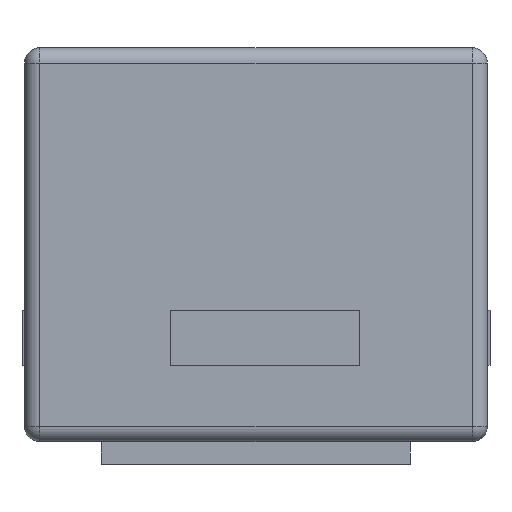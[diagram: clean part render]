
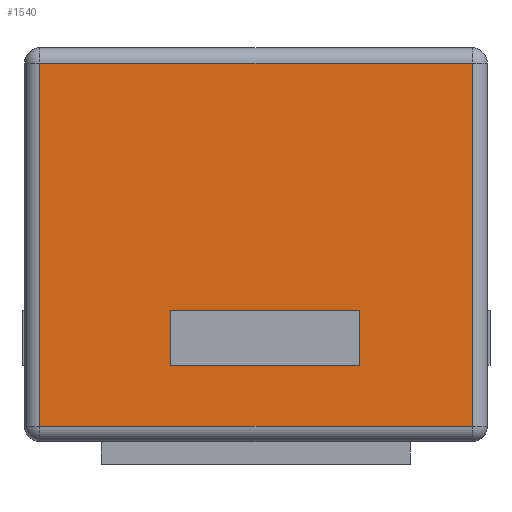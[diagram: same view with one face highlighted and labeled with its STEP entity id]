
A CAD part, left-side view. The second image highlights one B-rep face of the part: STEP entity #1540.
In plain terms, the highlighted planar face has unit normal (-1, 0, 0).
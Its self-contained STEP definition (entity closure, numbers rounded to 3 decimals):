
#189=ORIENTED_EDGE('',*,*,#435,.T.);
#190=ORIENTED_EDGE('',*,*,#436,.T.);
#191=ORIENTED_EDGE('',*,*,#437,.T.);
#192=ORIENTED_EDGE('',*,*,#438,.T.);
#193=ORIENTED_EDGE('',*,*,#389,.F.);
#194=ORIENTED_EDGE('',*,*,#387,.F.);
#195=ORIENTED_EDGE('',*,*,#385,.F.);
#196=ORIENTED_EDGE('',*,*,#382,.F.);
#382=EDGE_CURVE('',#529,#530,#619,.T.);
#385=EDGE_CURVE('',#530,#531,#622,.T.);
#387=EDGE_CURVE('',#531,#532,#624,.T.);
#389=EDGE_CURVE('',#532,#529,#626,.T.);
#435=EDGE_CURVE('',#558,#559,#672,.F.);
#436=EDGE_CURVE('',#559,#560,#673,.F.);
#437=EDGE_CURVE('',#560,#561,#674,.T.);
#438=EDGE_CURVE('',#561,#558,#675,.T.);
#529=VERTEX_POINT('',#2036);
#530=VERTEX_POINT('',#2037);
#531=VERTEX_POINT('',#2042);
#532=VERTEX_POINT('',#2046);
#558=VERTEX_POINT('',#2143);
#559=VERTEX_POINT('',#2144);
#560=VERTEX_POINT('',#2146);
#561=VERTEX_POINT('',#2148);
#619=LINE('',#2035,#742);
#622=LINE('',#2041,#745);
#624=LINE('',#2045,#747);
#626=LINE('',#2049,#749);
#672=LINE('',#2142,#795);
#673=LINE('',#2145,#796);
#674=LINE('',#2147,#797);
#675=LINE('',#2149,#798);
#742=VECTOR('',#1712,1000.);
#745=VECTOR('',#1717,1000.);
#747=VECTOR('',#1721,1000.);
#749=VECTOR('',#1725,1000.);
#795=VECTOR('',#1815,1000.);
#796=VECTOR('',#1816,1000.);
#797=VECTOR('',#1817,1000.);
#798=VECTOR('',#1818,1000.);
#872=EDGE_LOOP('',(#189,#190,#191,#192));
#873=EDGE_LOOP('',(#193,#194,#195,#196));
#947=FACE_BOUND('',#872,.T.);
#948=FACE_BOUND('',#873,.T.);
#1022=PLANE('',#1612);
#1540=ADVANCED_FACE('',(#947,#948),#1022,.T.);
#1612=AXIS2_PLACEMENT_3D('',#2141,#1813,#1814);
#1712=DIRECTION('',(0.,0.,-1.));
#1717=DIRECTION('',(0.,-1.,0.));
#1721=DIRECTION('',(0.,0.,1.));
#1725=DIRECTION('',(0.,1.,0.));
#1813=DIRECTION('',(-1.,0.,0.));
#1814=DIRECTION('',(0.,0.,1.));
#1815=DIRECTION('',(0.,1.,0.));
#1816=DIRECTION('',(0.,0.,-1.));
#1817=DIRECTION('',(0.,1.,0.));
#1818=DIRECTION('',(0.,0.,-1.));
#2035=CARTESIAN_POINT('',(-0.3,0.056,0.1));
#2036=CARTESIAN_POINT('',(-0.3,0.056,0.1));
#2037=CARTESIAN_POINT('',(-0.3,0.056,0.064));
#2041=CARTESIAN_POINT('',(-0.3,0.056,0.064));
#2042=CARTESIAN_POINT('',(-0.3,-0.067,0.064));
#2045=CARTESIAN_POINT('',(-0.3,-0.067,0.064));
#2046=CARTESIAN_POINT('',(-0.3,-0.067,0.1));
#2049=CARTESIAN_POINT('',(-0.3,-0.067,0.1));
#2141=CARTESIAN_POINT('',(-0.3,-0.15,0.27));
#2142=CARTESIAN_POINT('',(-0.3,-0.15,0.025));
#2143=CARTESIAN_POINT('',(-0.3,0.14,0.025));
#2144=CARTESIAN_POINT('',(-0.3,-0.14,0.025));
#2145=CARTESIAN_POINT('',(-0.3,-0.14,0.27));
#2146=CARTESIAN_POINT('',(-0.3,-0.14,0.26));
#2147=CARTESIAN_POINT('',(-0.3,0.15,0.26));
#2148=CARTESIAN_POINT('',(-0.3,0.14,0.26));
#2149=CARTESIAN_POINT('',(-0.3,0.14,0.27));
